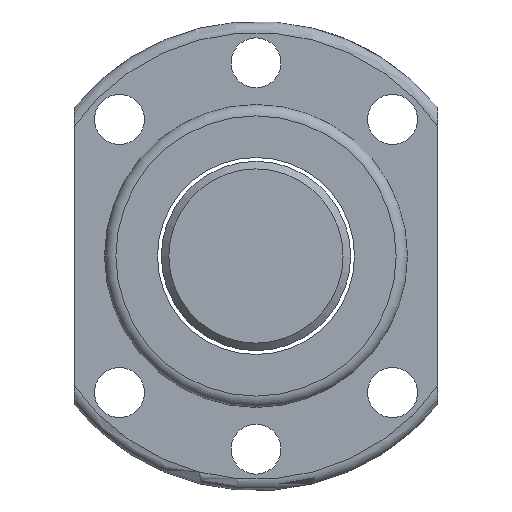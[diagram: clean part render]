
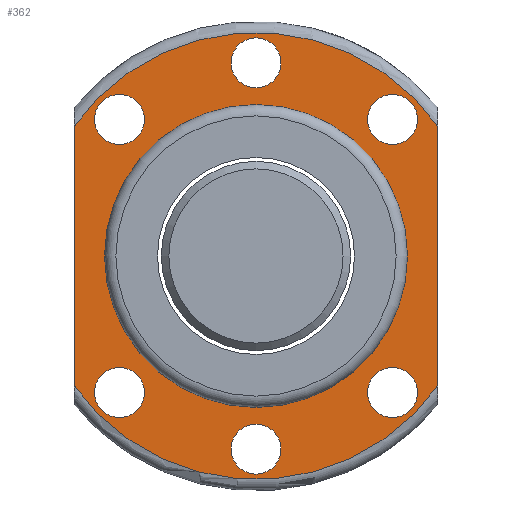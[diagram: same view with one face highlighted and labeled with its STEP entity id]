
A CAD part, left-side view. The second image highlights one B-rep face of the part: STEP entity #362.
In plain terms, the highlighted planar face has unit normal (-1, 0, 0).
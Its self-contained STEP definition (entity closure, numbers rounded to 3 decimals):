
#58 = CARTESIAN_POINT ( 'NONE',  ( -25., 20., 0. ) ) ;
#91 = DIRECTION ( 'NONE',  ( -1., 0., 0. ) ) ;
#97 = AXIS2_PLACEMENT_3D ( 'NONE', #995, #91, #1485 ) ;
#110 = EDGE_LOOP ( 'NONE', ( #2916 ) ) ;
#157 = DIRECTION ( 'NONE',  ( 0., 1., 0. ) ) ;
#181 = DIRECTION ( 'NONE',  ( 0., -1., 0. ) ) ;
#226 = EDGE_CURVE ( 'NONE', #759, #759, #1703, .T. ) ;
#239 = CARTESIAN_POINT ( 'NONE',  ( -25., 0., 0. ) ) ;
#240 = DIRECTION ( 'NONE',  ( 0., -1., 0. ) ) ;
#362 = ADVANCED_FACE ( 'NONE', ( #685, #440, #2330, #936, #3081, #2112, #2138, #1644 ), #1863, .T. ) ;
#381 = DIRECTION ( 'NONE',  ( 0., 1., 0. ) ) ;
#396 = LINE ( 'NONE', #2779, #1102 ) ;
#417 = VERTEX_POINT ( 'NONE', #1174 ) ;
#433 = CIRCLE ( 'NONE', #2170, 3.3 ) ;
#440 = FACE_BOUND ( 'NONE', #110, .T. ) ;
#515 = ORIENTED_EDGE ( 'NONE', *, *, #2822, .F. ) ;
#545 = CIRCLE ( 'NONE', #1050, 3.3 ) ;
#560 = VERTEX_POINT ( 'NONE', #2385 ) ;
#616 = EDGE_CURVE ( 'NONE', #560, #417, #396, .T. ) ;
#630 = VERTEX_POINT ( 'NONE', #2597 ) ;
#635 = ORIENTED_EDGE ( 'NONE', *, *, #2887, .F. ) ;
#685 = FACE_OUTER_BOUND ( 'NONE', #1047, .T. ) ;
#690 = CARTESIAN_POINT ( 'NONE',  ( -25., 24., -17.154 ) ) ;
#710 = DIRECTION ( 'NONE',  ( 0., 0., 1. ) ) ;
#727 = CIRCLE ( 'NONE', #2333, 3.3 ) ;
#730 = ORIENTED_EDGE ( 'NONE', *, *, #1491, .T. ) ;
#759 = VERTEX_POINT ( 'NONE', #2861 ) ;
#763 = EDGE_LOOP ( 'NONE', ( #2672 ) ) ;
#856 = DIRECTION ( 'NONE',  ( 1., 0., 0. ) ) ;
#872 = DIRECTION ( 'NONE',  ( -1., 0., 0. ) ) ;
#914 = DIRECTION ( 'NONE',  ( 0., 1., 0. ) ) ;
#936 = FACE_BOUND ( 'NONE', #1587, .T. ) ;
#973 = EDGE_CURVE ( 'NONE', #2152, #2152, #545, .T. ) ;
#977 = CARTESIAN_POINT ( 'NONE',  ( -25., -3.3, 25.5 ) ) ;
#980 = AXIS2_PLACEMENT_3D ( 'NONE', #239, #3044, #914 ) ;
#991 = CIRCLE ( 'NONE', #97, 3.3 ) ;
#995 = CARTESIAN_POINT ( 'NONE',  ( -25., 18.031, -18.031 ) ) ;
#1026 = ORIENTED_EDGE ( 'NONE', *, *, #1631, .F. ) ;
#1047 = EDGE_LOOP ( 'NONE', ( #515, #1534, #1026, #635 ) ) ;
#1050 = AXIS2_PLACEMENT_3D ( 'NONE', #2044, #2735, #181 ) ;
#1079 = CARTESIAN_POINT ( 'NONE',  ( -25., 0., 0. ) ) ;
#1096 = DIRECTION ( 'NONE',  ( 0., -1., 0. ) ) ;
#1102 = VECTOR ( 'NONE', #710, 1000. ) ;
#1160 = CARTESIAN_POINT ( 'NONE',  ( -25., -18.031, -18.031 ) ) ;
#1167 = ORIENTED_EDGE ( 'NONE', *, *, #2347, .F. ) ;
#1174 = CARTESIAN_POINT ( 'NONE',  ( -25., -24., 17.154 ) ) ;
#1228 = AXIS2_PLACEMENT_3D ( 'NONE', #1876, #2778, #381 ) ;
#1260 = VERTEX_POINT ( 'NONE', #690 ) ;
#1352 = DIRECTION ( 'NONE',  ( 0., 0., 1. ) ) ;
#1395 = LINE ( 'NONE', #1615, #1632 ) ;
#1396 = DIRECTION ( 'NONE',  ( 0., 1., 0. ) ) ;
#1418 = CARTESIAN_POINT ( 'NONE',  ( -25., 0., 25.5 ) ) ;
#1433 = DIRECTION ( 'NONE',  ( -1., 0., 0. ) ) ;
#1460 = AXIS2_PLACEMENT_3D ( 'NONE', #2586, #1877, #1396 ) ;
#1485 = DIRECTION ( 'NONE',  ( 0., -1., 0. ) ) ;
#1486 = VERTEX_POINT ( 'NONE', #2137 ) ;
#1491 = EDGE_CURVE ( 'NONE', #2848, #2848, #2478, .T. ) ;
#1496 = EDGE_CURVE ( 'NONE', #1486, #1486, #727, .T. ) ;
#1534 = ORIENTED_EDGE ( 'NONE', *, *, #616, .T. ) ;
#1551 = EDGE_CURVE ( 'NONE', #2894, #2894, #2723, .T. ) ;
#1587 = EDGE_LOOP ( 'NONE', ( #2510 ) ) ;
#1615 = CARTESIAN_POINT ( 'NONE',  ( -25., 24., 0. ) ) ;
#1631 = EDGE_CURVE ( 'NONE', #630, #417, #3033, .T. ) ;
#1632 = VECTOR ( 'NONE', #1352, 1000. ) ;
#1644 = FACE_BOUND ( 'NONE', #2449, .T. ) ;
#1663 = CARTESIAN_POINT ( 'NONE',  ( -25., 18.031, 18.031 ) ) ;
#1696 = VERTEX_POINT ( 'NONE', #2877 ) ;
#1703 = CIRCLE ( 'NONE', #2895, 3.3 ) ;
#1863 = PLANE ( 'NONE',  #1460 ) ;
#1869 = CARTESIAN_POINT ( 'NONE',  ( -25., -18.031, 18.031 ) ) ;
#1876 = CARTESIAN_POINT ( 'NONE',  ( -25., 0., 0. ) ) ;
#1877 = DIRECTION ( 'NONE',  ( -1., 0., 0. ) ) ;
#1879 = CIRCLE ( 'NONE', #1228, 29.5 ) ;
#1884 = ORIENTED_EDGE ( 'NONE', *, *, #1551, .F. ) ;
#1936 = AXIS2_PLACEMENT_3D ( 'NONE', #1079, #856, #157 ) ;
#1948 = EDGE_CURVE ( 'NONE', #1696, #1696, #991, .T. ) ;
#1949 = CARTESIAN_POINT ( 'NONE',  ( -25., 14.731, 18.031 ) ) ;
#1967 = VERTEX_POINT ( 'NONE', #1949 ) ;
#2044 = CARTESIAN_POINT ( 'NONE',  ( -25., 0., -25.5 ) ) ;
#2089 = EDGE_LOOP ( 'NONE', ( #2476 ) ) ;
#2097 = DIRECTION ( 'NONE',  ( 0., -1., 0. ) ) ;
#2112 = FACE_BOUND ( 'NONE', #2089, .T. ) ;
#2117 = DIRECTION ( 'NONE',  ( 0., -1., 0. ) ) ;
#2137 = CARTESIAN_POINT ( 'NONE',  ( -25., -21.331, 18.031 ) ) ;
#2138 = FACE_BOUND ( 'NONE', #2784, .T. ) ;
#2152 = VERTEX_POINT ( 'NONE', #2660 ) ;
#2170 = AXIS2_PLACEMENT_3D ( 'NONE', #1663, #1433, #240 ) ;
#2330 = FACE_BOUND ( 'NONE', #763, .T. ) ;
#2333 = AXIS2_PLACEMENT_3D ( 'NONE', #1869, #2351, #2117 ) ;
#2347 = EDGE_CURVE ( 'NONE', #1967, #1967, #433, .T. ) ;
#2351 = DIRECTION ( 'NONE',  ( -1., 0., 0. ) ) ;
#2385 = CARTESIAN_POINT ( 'NONE',  ( -25., -24., -17.154 ) ) ;
#2449 = EDGE_LOOP ( 'NONE', ( #730 ) ) ;
#2476 = ORIENTED_EDGE ( 'NONE', *, *, #1948, .F. ) ;
#2478 = CIRCLE ( 'NONE', #980, 20. ) ;
#2510 = ORIENTED_EDGE ( 'NONE', *, *, #973, .F. ) ;
#2586 = CARTESIAN_POINT ( 'NONE',  ( -25., 24.75, 0. ) ) ;
#2597 = CARTESIAN_POINT ( 'NONE',  ( -25., 24., 17.154 ) ) ;
#2660 = CARTESIAN_POINT ( 'NONE',  ( -25., -3.3, -25.5 ) ) ;
#2672 = ORIENTED_EDGE ( 'NONE', *, *, #226, .F. ) ;
#2723 = CIRCLE ( 'NONE', #2789, 3.3 ) ;
#2735 = DIRECTION ( 'NONE',  ( -1., 0., 0. ) ) ;
#2778 = DIRECTION ( 'NONE',  ( 1., 0., 0. ) ) ;
#2779 = CARTESIAN_POINT ( 'NONE',  ( -25., -24., 0. ) ) ;
#2784 = EDGE_LOOP ( 'NONE', ( #1167 ) ) ;
#2789 = AXIS2_PLACEMENT_3D ( 'NONE', #1418, #872, #1096 ) ;
#2822 = EDGE_CURVE ( 'NONE', #560, #1260, #1879, .T. ) ;
#2835 = DIRECTION ( 'NONE',  ( -1., 0., 0. ) ) ;
#2848 = VERTEX_POINT ( 'NONE', #58 ) ;
#2861 = CARTESIAN_POINT ( 'NONE',  ( -25., -21.331, -18.031 ) ) ;
#2877 = CARTESIAN_POINT ( 'NONE',  ( -25., 14.731, -18.031 ) ) ;
#2887 = EDGE_CURVE ( 'NONE', #1260, #630, #1395, .T. ) ;
#2894 = VERTEX_POINT ( 'NONE', #977 ) ;
#2895 = AXIS2_PLACEMENT_3D ( 'NONE', #1160, #2835, #2097 ) ;
#2916 = ORIENTED_EDGE ( 'NONE', *, *, #1496, .F. ) ;
#2961 = EDGE_LOOP ( 'NONE', ( #1884 ) ) ;
#3033 = CIRCLE ( 'NONE', #1936, 29.5 ) ;
#3044 = DIRECTION ( 'NONE',  ( 1., 0., 0. ) ) ;
#3081 = FACE_BOUND ( 'NONE', #2961, .T. ) ;
